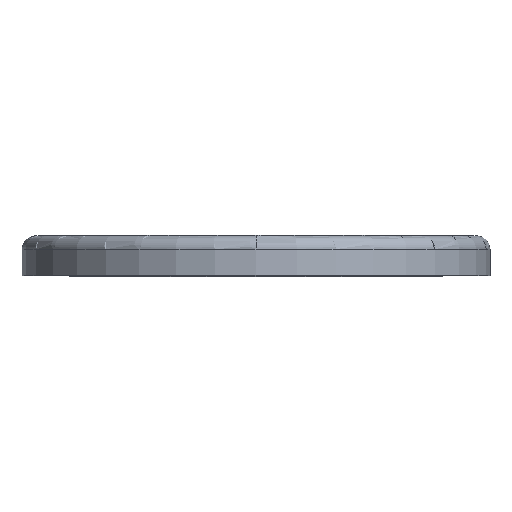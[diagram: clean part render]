
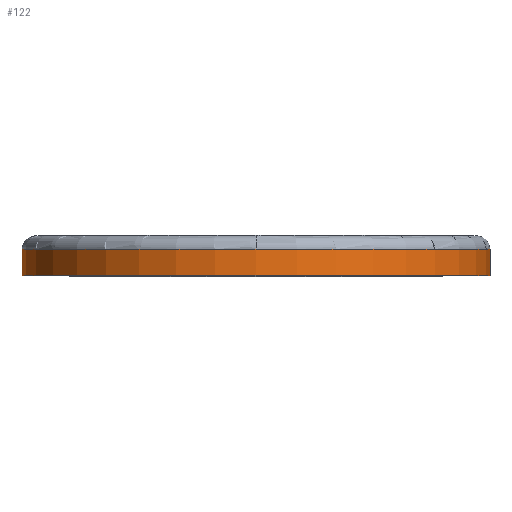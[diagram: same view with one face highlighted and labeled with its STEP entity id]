
A CAD part, top view. The second image highlights one B-rep face of the part: STEP entity #122.
In plain terms, the highlighted cylindrical face has radius 222.5 mm (diameter 445 mm), a partial arc.
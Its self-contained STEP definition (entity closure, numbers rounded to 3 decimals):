
#122=ADVANCED_FACE('',(#274),#275,.T.);
#274=FACE_OUTER_BOUND('',#465,.T.);
#275=CYLINDRICAL_SURFACE('',#466,222.5);
#465=EDGE_LOOP('',(#689,#690,#691,#692,#693));
#466=AXIS2_PLACEMENT_3D('',#694,#695,#696);
#689=ORIENTED_EDGE('',*,*,#1341,.F.);
#690=ORIENTED_EDGE('',*,*,#1342,.T.);
#691=ORIENTED_EDGE('',*,*,#1343,.F.);
#692=ORIENTED_EDGE('',*,*,#1344,.F.);
#693=ORIENTED_EDGE('',*,*,#1345,.F.);
#694=CARTESIAN_POINT('',(-316.719,84.175,0.0));
#695=DIRECTION('',(0.0,1.0,0.0));
#696=DIRECTION('',(-1.0,0.0,0.0));
#1341=EDGE_CURVE('',#1652,#1653,#1654,.T.);
#1342=EDGE_CURVE('',#1652,#1655,#1656,.T.);
#1343=EDGE_CURVE('',#1657,#1655,#1658,.T.);
#1344=EDGE_CURVE('',#1659,#1657,#1660,.T.);
#1345=EDGE_CURVE('',#1653,#1659,#1661,.T.);
#1652=VERTEX_POINT('',#2091);
#1653=VERTEX_POINT('',#2092);
#1654=LINE('',#2093,#2094);
#1655=VERTEX_POINT('',#2095);
#1656=CIRCLE('',#2096,222.5);
#1657=VERTEX_POINT('',#2097);
#1658=LINE('',#2098,#2099);
#1659=VERTEX_POINT('',#2100);
#1660=CIRCLE('',#2101,222.5);
#1661=CIRCLE('',#2102,222.5);
#2091=CARTESIAN_POINT('',(-539.219,71.675,0.0));
#2092=CARTESIAN_POINT('',(-539.219,96.675,0.0));
#2093=CARTESIAN_POINT('',(-539.219,84.175,0.));
#2094=VECTOR('',#2886,1.0);
#2095=CARTESIAN_POINT('',(-94.219,71.675,0.));
#2096=AXIS2_PLACEMENT_3D('',#2887,#2888,#2889);
#2097=CARTESIAN_POINT('',(-94.219,96.675,0.));
#2098=CARTESIAN_POINT('',(-94.219,84.175,0.));
#2099=VECTOR('',#2890,1.0);
#2100=CARTESIAN_POINT('',(-316.719,96.675,222.5));
#2101=AXIS2_PLACEMENT_3D('',#2891,#2892,#2893);
#2102=AXIS2_PLACEMENT_3D('',#2894,#2895,#2896);
#2886=DIRECTION('',(0.0,1.0,0.0));
#2887=CARTESIAN_POINT('',(-316.719,71.675,0.0));
#2888=DIRECTION('',(0.0,1.0,0.0));
#2889=DIRECTION('',(-1.0,0.0,0.0));
#2890=DIRECTION('',(-0.0,-1.0,-0.0));
#2891=CARTESIAN_POINT('',(-316.719,96.675,0.0));
#2892=DIRECTION('',(0.0,1.0,0.0));
#2893=DIRECTION('',(-1.0,0.0,0.0));
#2894=CARTESIAN_POINT('',(-316.719,96.675,0.0));
#2895=DIRECTION('',(0.0,1.0,0.0));
#2896=DIRECTION('',(-1.0,0.0,0.0));
